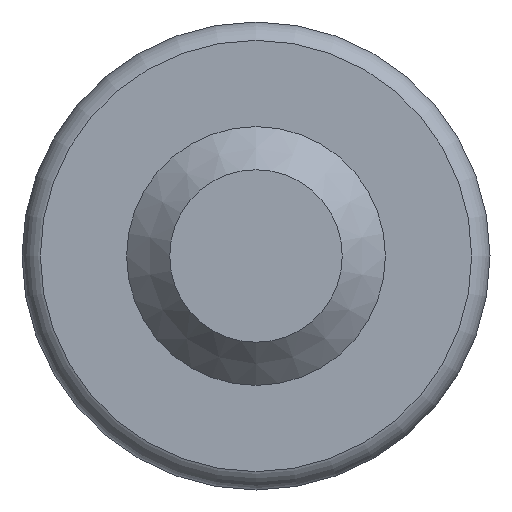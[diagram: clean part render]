
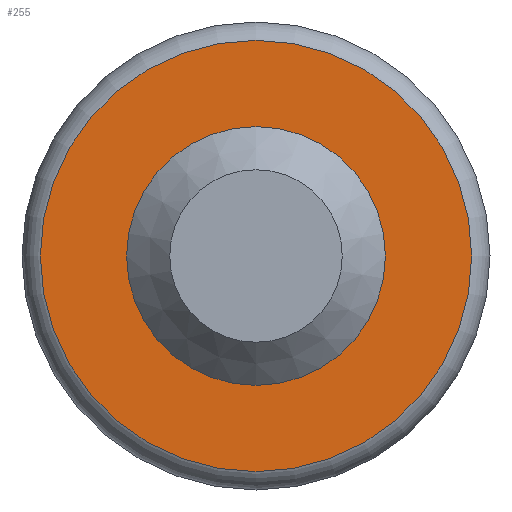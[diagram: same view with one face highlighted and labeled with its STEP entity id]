
A CAD part, front view. The second image highlights one B-rep face of the part: STEP entity #255.
In plain terms, the highlighted planar face has unit normal (0, -1, 0).
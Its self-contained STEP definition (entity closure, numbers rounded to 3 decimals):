
#22 = CARTESIAN_POINT ( 'NONE',  ( 3., -28., 0. ) ) ;
#31 = DIRECTION ( 'NONE',  ( 0., 0., 1. ) ) ;
#62 = ORIENTED_EDGE ( 'NONE', *, *, #454, .T. ) ;
#124 = EDGE_LOOP ( 'NONE', ( #62 ) ) ;
#151 = VERTEX_POINT ( 'NONE', #373 ) ;
#178 = DIRECTION ( 'NONE',  ( 0., 1., 0. ) ) ;
#195 = ORIENTED_EDGE ( 'NONE', *, *, #363, .F. ) ;
#203 = DIRECTION ( 'NONE',  ( 0., 1., 0. ) ) ;
#212 = DIRECTION ( 'NONE',  ( 0., 0., 1. ) ) ;
#244 = AXIS2_PLACEMENT_3D ( 'NONE', #245, #178, #31 ) ;
#245 = CARTESIAN_POINT ( 'NONE',  ( 0., -28., 0. ) ) ;
#247 = FACE_BOUND ( 'NONE', #124, .T. ) ;
#248 = CARTESIAN_POINT ( 'NONE',  ( 0., -28., 0. ) ) ;
#255 = ADVANCED_FACE ( 'NONE', ( #307, #247 ), #459, .F. ) ;
#263 = AXIS2_PLACEMENT_3D ( 'NONE', #248, #389, #212 ) ;
#271 = AXIS2_PLACEMENT_3D ( 'NONE', #22, #203, #350 ) ;
#307 = FACE_OUTER_BOUND ( 'NONE', #432, .T. ) ;
#329 = CARTESIAN_POINT ( 'NONE',  ( 0., -28., 5. ) ) ;
#350 = DIRECTION ( 'NONE',  ( 0., 0., 1. ) ) ;
#363 = EDGE_CURVE ( 'NONE', #441, #441, #385, .T. ) ;
#373 = CARTESIAN_POINT ( 'NONE',  ( 0., -28., 3. ) ) ;
#385 = CIRCLE ( 'NONE', #244, 5. ) ;
#389 = DIRECTION ( 'NONE',  ( 0., 1., 0. ) ) ;
#432 = EDGE_LOOP ( 'NONE', ( #195 ) ) ;
#441 = VERTEX_POINT ( 'NONE', #329 ) ;
#442 = CIRCLE ( 'NONE', #263, 3. ) ;
#454 = EDGE_CURVE ( 'NONE', #151, #151, #442, .T. ) ;
#459 = PLANE ( 'NONE',  #271 ) ;
